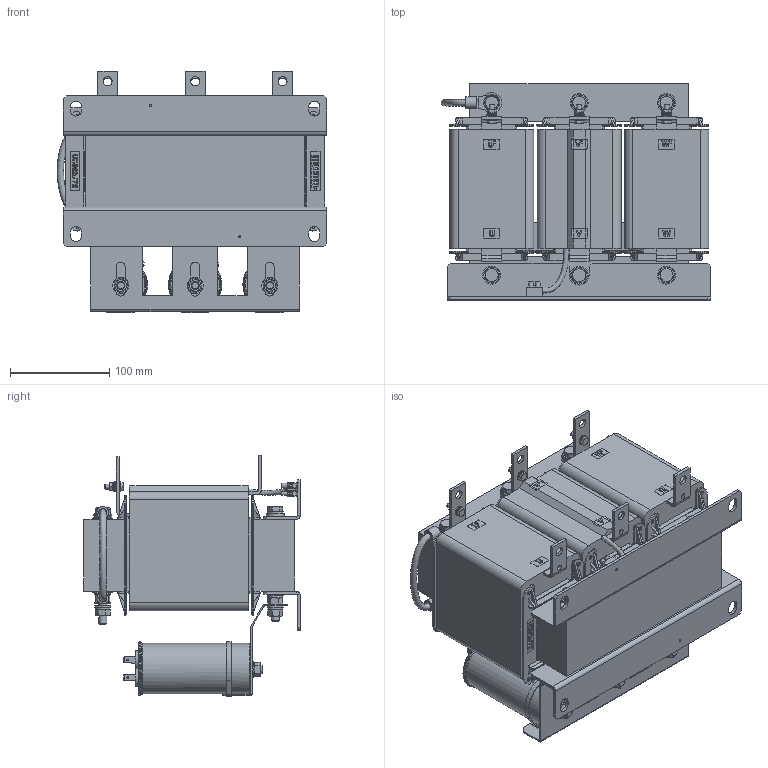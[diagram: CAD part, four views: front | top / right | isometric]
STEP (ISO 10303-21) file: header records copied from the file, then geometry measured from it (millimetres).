
FILE_DESCRIPTION(/* description */ (''),/* implementation_level */ '2;1');
FILE_NAME(/* name */ 'C:\Users\Erika.Jenzer\OneDrive - Schaffner EMV AG\BELLA\STEP FILES BELLA\FN\FN5420-90-99-E0XXT.stp',/* time_stamp */ '2021-07-07T15:26:05+02:00',/* author */ ('erika.jenzer'),/* organization */ (''),/* preprocessor_version */ 'ST-DEVELOPER v18.1',/* originating_system */ 'Autodesk Inventor 2020',/* authorisation */ '');
FILE_SCHEMA (('AUTOMOTIVE_DESIGN { 1 0 10303 214 3 1 1 }'));
Products named in the file (1): FN5420-90-99-E0XXT
Bounding box: 271.31 x 217.6 x 243.19 mm (x, y, z)
Volume: 5973094.9 mm3; surface area: 573448.1 mm2
Topology: 2 solids, 12 shells, 3913 faces, 10679 edges, 7006 vertices
Faces by surface type: plane 2835, cylinder 676, cone 151, torus 147, bspline 91, sphere 13
Full cylindrical faces by diameter (mm): 0.009 x2, 1 x1, 1.6 x12, 2.013 x2, 2.5 x1, 2.8 x5, 3.4 x4, 4 x24, 5 x6, 5.3 x6, 5.5 x6, 6.5 x2, 6.9 x3, 7.8 x2, 7.92 x6, 8 x27, 8.2 x7, 8.4 x16, 9 x7, 9.9 x5, 10 x6, 10.5 x3, 11 x4, 11.4 x6, 11.699 x2, 13 x1, 14.64 x6, 16 x17, 17.82 x6, 18 x5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
Entity records: 129338 total; most frequent: CARTESIAN_POINT 26846, ORIENTED_EDGE 21310, DIRECTION 19527, EDGE_CURVE 10655, LINE 7435, VECTOR 7435, VERTEX_POINT 7006, AXIS2_PLACEMENT_3D 6046
